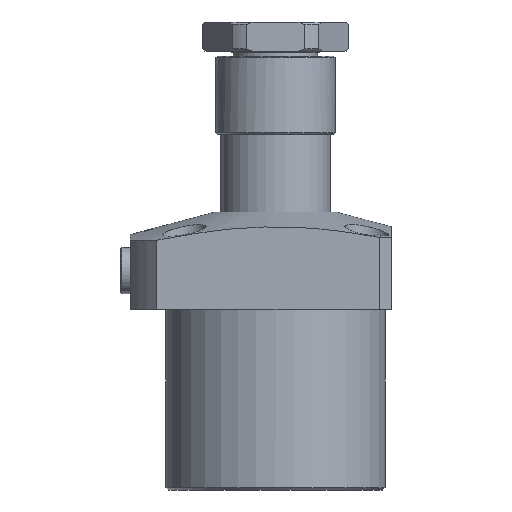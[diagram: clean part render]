
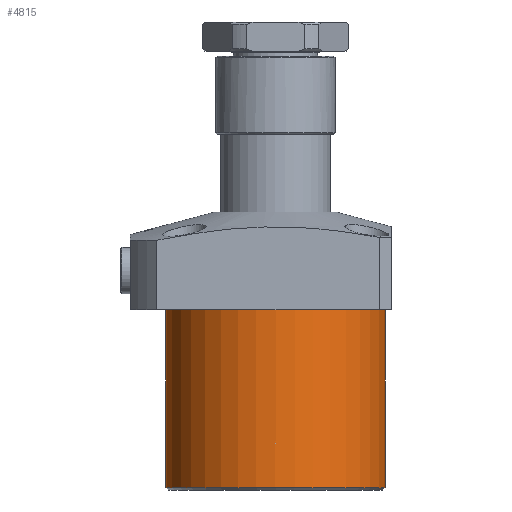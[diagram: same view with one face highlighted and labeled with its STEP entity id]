
A CAD part, front view. The second image highlights one B-rep face of the part: STEP entity #4815.
In plain terms, the highlighted cylindrical face has radius 45 mm (diameter 90 mm), a partial arc.
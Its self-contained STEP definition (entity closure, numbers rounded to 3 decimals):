
#935 = CARTESIAN_POINT ( 'NONE',  ( 45., 0., -73. ) ) ;
#1957 = AXIS2_PLACEMENT_3D ( 'NONE', #14141, #6311, #15446 ) ;
#2099 = CARTESIAN_POINT ( 'NONE',  ( 0., 0., -74. ) ) ;
#2839 = CARTESIAN_POINT ( 'NONE',  ( 45., 0., 0. ) ) ;
#3284 = ORIENTED_EDGE ( 'NONE', *, *, #3791, .T. ) ;
#3791 = EDGE_CURVE ( 'NONE', #8674, #10651, #4285, .T. ) ;
#4285 = CIRCLE ( 'NONE', #1957, 45. ) ;
#4642 = CARTESIAN_POINT ( 'NONE',  ( 0., 0., -73. ) ) ;
#4713 = VERTEX_POINT ( 'NONE', #6989 ) ;
#4724 = EDGE_CURVE ( 'NONE', #4713, #10651, #12448, .T. ) ;
#4815 = ADVANCED_FACE ( 'NONE', ( #8143 ), #14670, .T. ) ;
#5309 = VECTOR ( 'NONE', #16572, 1000. ) ;
#5494 = EDGE_LOOP ( 'NONE', ( #10625, #6848, #6866, #3284 ) ) ;
#5865 = AXIS2_PLACEMENT_3D ( 'NONE', #2099, #7271, #8589 ) ;
#5960 = DIRECTION ( 'NONE',  ( -1., 0., 0. ) ) ;
#6311 = DIRECTION ( 'NONE',  ( 0., 0., -1. ) ) ;
#6848 = ORIENTED_EDGE ( 'NONE', *, *, #11258, .T. ) ;
#6866 = ORIENTED_EDGE ( 'NONE', *, *, #16818, .T. ) ;
#6989 = CARTESIAN_POINT ( 'NONE',  ( -45., 0., -73. ) ) ;
#7271 = DIRECTION ( 'NONE',  ( 0., 0., 1. ) ) ;
#8087 = VERTEX_POINT ( 'NONE', #935 ) ;
#8143 = FACE_OUTER_BOUND ( 'NONE', #5494, .T. ) ;
#8589 = DIRECTION ( 'NONE',  ( 1., 0., 0. ) ) ;
#8664 = CARTESIAN_POINT ( 'NONE',  ( -45., 0., 0. ) ) ;
#8674 = VERTEX_POINT ( 'NONE', #2839 ) ;
#8975 = VECTOR ( 'NONE', #14847, 1000. ) ;
#10074 = AXIS2_PLACEMENT_3D ( 'NONE', #4642, #13770, #5960 ) ;
#10625 = ORIENTED_EDGE ( 'NONE', *, *, #4724, .F. ) ;
#10651 = VERTEX_POINT ( 'NONE', #8664 ) ;
#10920 = CARTESIAN_POINT ( 'NONE',  ( -45., 0., -74. ) ) ;
#11258 = EDGE_CURVE ( 'NONE', #4713, #8087, #13810, .T. ) ;
#12448 = LINE ( 'NONE', #10920, #8975 ) ;
#13770 = DIRECTION ( 'NONE',  ( 0., 0., 1. ) ) ;
#13810 = CIRCLE ( 'NONE', #10074, 45. ) ;
#13971 = CARTESIAN_POINT ( 'NONE',  ( 45., 0., -74. ) ) ;
#14141 = CARTESIAN_POINT ( 'NONE',  ( 0., 0., 0. ) ) ;
#14670 = CYLINDRICAL_SURFACE ( 'NONE', #5865, 45. ) ;
#14847 = DIRECTION ( 'NONE',  ( 0., 0., 1. ) ) ;
#15315 = LINE ( 'NONE', #13971, #5309 ) ;
#15446 = DIRECTION ( 'NONE',  ( -1., 0., 0. ) ) ;
#16572 = DIRECTION ( 'NONE',  ( 0., 0., 1. ) ) ;
#16818 = EDGE_CURVE ( 'NONE', #8087, #8674, #15315, .T. ) ;
